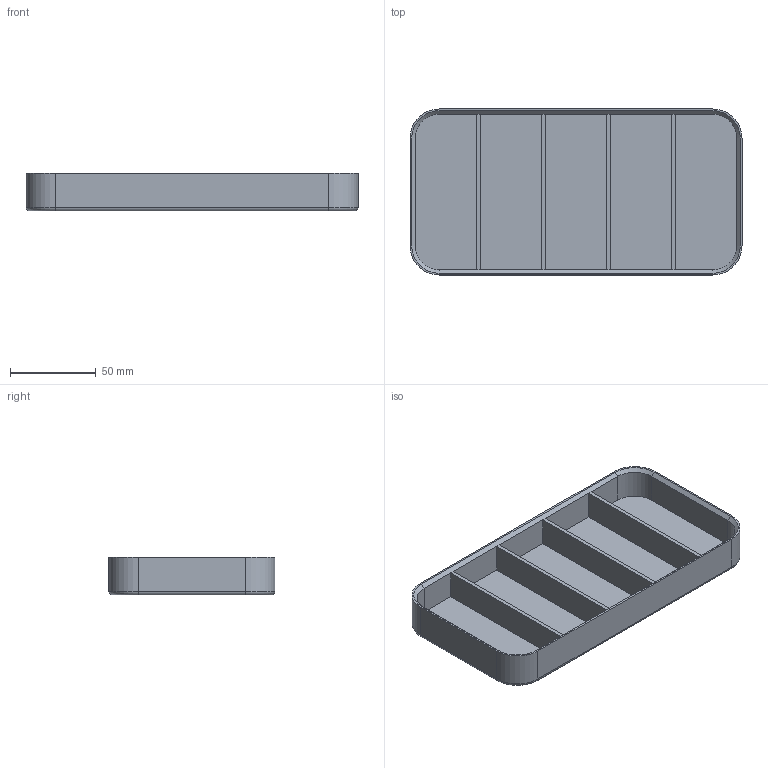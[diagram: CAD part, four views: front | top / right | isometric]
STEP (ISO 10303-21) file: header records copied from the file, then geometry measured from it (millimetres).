
FILE_DESCRIPTION(/* description */ (''),/* implementation_level */ '2;1');
FILE_NAME(/* name */ '2x4_subdivided2.step',/* time_stamp */ '2026-07-09T21:09:31-03:00',/* author */ (''),/* organization */ (''),/* preprocessor_version */ 'ST-DEVELOPER v20.1',/* originating_system */ 'Autodesk Translation Framework v15.8.0.0',/* authorisation */ '');
FILE_SCHEMA (('AUTOMOTIVE_DESIGN { 1 0 10303 214 3 1 1 }'));
Length unit declared in the file: millimetre
Products named in the file (1): Internal tray parametric
Bounding box: 194 x 97 x 22 mm (x, y, z)
Volume: 97510.5 mm3; surface area: 70454.4 mm2
Topology: 1 solids, 1 shells, 59 faces, 136 edges, 80 vertices
Faces by surface type: plane 39, cylinder 12, torus 4, cone 4
Entity records: 1659 total; most frequent: DIRECTION 288, CARTESIAN_POINT 276, ORIENTED_EDGE 272, EDGE_CURVE 136, LINE 104, VECTOR 104, AXIS2_PLACEMENT_3D 92, VERTEX_POINT 80
